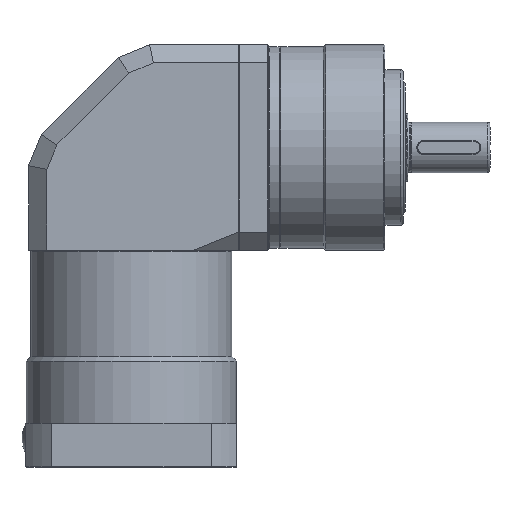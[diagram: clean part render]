
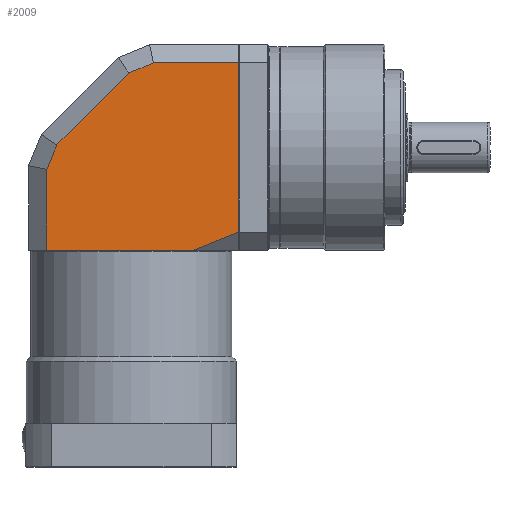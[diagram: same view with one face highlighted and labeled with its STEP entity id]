
A CAD part, front view. The second image highlights one B-rep face of the part: STEP entity #2009.
In plain terms, the highlighted planar face has unit normal (0, -1, 0).
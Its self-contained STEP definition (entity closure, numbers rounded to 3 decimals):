
#283=FACE_OUTER_BOUND('',#3063,.T.);
#623=LINE('',#11199,#1098);
#625=LINE('',#11203,#1100);
#648=LINE('',#11267,#1123);
#658=LINE('',#11287,#1133);
#664=LINE('',#11299,#1139);
#675=LINE('',#11321,#1150);
#676=LINE('',#11323,#1151);
#678=LINE('',#11327,#1153);
#1098=VECTOR('',#8911,1.);
#1100=VECTOR('',#8915,1.);
#1123=VECTOR('',#8980,1.);
#1133=VECTOR('',#8998,1.);
#1139=VECTOR('',#9008,1.);
#1150=VECTOR('',#9027,1.);
#1151=VECTOR('',#9030,1.);
#1153=VECTOR('',#9034,1.);
#1582=PLANE('',#7728);
#2009=ADVANCED_FACE('',(#283),#1582,.T.);
#3063=EDGE_LOOP('',(#4084,#4085,#4086,#4087,#4088,#4089,#4090,#4091));
#4084=ORIENTED_EDGE('',*,*,#6419,.F.);
#4085=ORIENTED_EDGE('',*,*,#6421,.T.);
#4086=ORIENTED_EDGE('',*,*,#6407,.T.);
#4087=ORIENTED_EDGE('',*,*,#6401,.T.);
#4088=ORIENTED_EDGE('',*,*,#6391,.T.);
#4089=ORIENTED_EDGE('',*,*,#6360,.T.);
#4090=ORIENTED_EDGE('',*,*,#6358,.T.);
#4091=ORIENTED_EDGE('',*,*,#6418,.F.);
#5638=VERTEX_POINT('',#11196);
#5639=VERTEX_POINT('',#11198);
#5640=VERTEX_POINT('',#11202);
#5659=VERTEX_POINT('',#11264);
#5665=VERTEX_POINT('',#11284);
#5670=VERTEX_POINT('',#11297);
#5677=VERTEX_POINT('',#11320);
#5678=VERTEX_POINT('',#11324);
#6358=EDGE_CURVE('',#5638,#5639,#623,.T.);
#6360=EDGE_CURVE('',#5640,#5638,#625,.T.);
#6391=EDGE_CURVE('',#5659,#5640,#648,.T.);
#6401=EDGE_CURVE('',#5665,#5659,#658,.T.);
#6407=EDGE_CURVE('',#5670,#5665,#664,.T.);
#6418=EDGE_CURVE('',#5677,#5639,#675,.T.);
#6419=EDGE_CURVE('',#5678,#5677,#676,.T.);
#6421=EDGE_CURVE('',#5678,#5670,#678,.T.);
#7728=AXIS2_PLACEMENT_3D('',#11328,#9035,#9036);
#8911=DIRECTION('',(0.,0.,-1.));
#8915=DIRECTION('',(-0.383,0.,-0.924));
#8980=DIRECTION('',(-0.707,0.,-0.707));
#8998=DIRECTION('',(-0.924,0.,-0.383));
#9008=DIRECTION('',(-1.,0.,0.));
#9027=DIRECTION('',(-1.,0.,0.));
#9030=DIRECTION('',(-0.928,0.,-0.371));
#9034=DIRECTION('',(0.,0.,1.));
#9035=DIRECTION('',(0.,-1.,0.));
#9036=DIRECTION('',(0.,0.,-1.));
#11196=CARTESIAN_POINT('',(-37.,-45.,130.409));
#11198=CARTESIAN_POINT('',(-37.,-45.,95.));
#11199=CARTESIAN_POINT('',(-37.,-45.,95.));
#11202=CARTESIAN_POINT('',(-32.561,-45.,141.125));
#11203=CARTESIAN_POINT('',(-37.609,-45.,128.939));
#11264=CARTESIAN_POINT('',(-1.125,-45.,172.561));
#11267=CARTESIAN_POINT('',(-33.686,-45.,140.));
#11284=CARTESIAN_POINT('',(9.591,-45.,177.));
#11287=CARTESIAN_POINT('',(-2.595,-45.,171.952));
#11297=CARTESIAN_POINT('',(47.,-45.,177.));
#11299=CARTESIAN_POINT('',(8.,-45.,177.));
#11320=CARTESIAN_POINT('',(27.,-45.,95.));
#11321=CARTESIAN_POINT('',(47.,-45.,95.));
#11323=CARTESIAN_POINT('',(19.241,-45.,91.897));
#11324=CARTESIAN_POINT('',(47.,-45.,103.));
#11327=CARTESIAN_POINT('',(47.,-45.,90.));
#11328=CARTESIAN_POINT('',(0.,-45.,140.));
